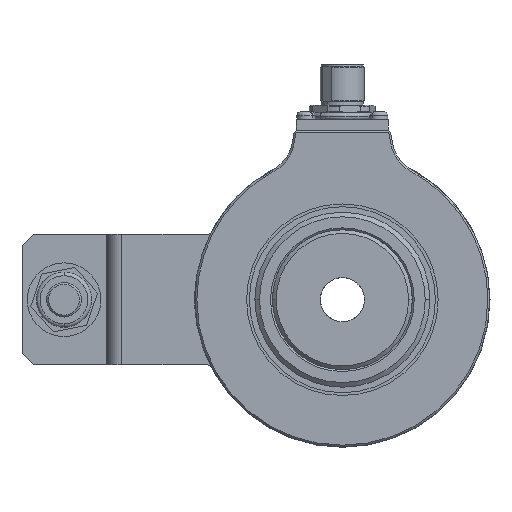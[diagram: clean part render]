
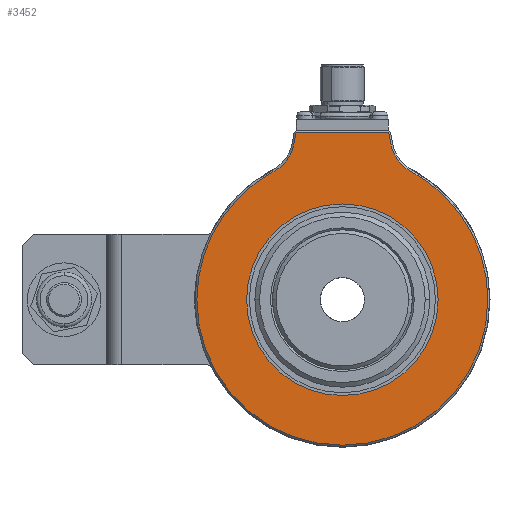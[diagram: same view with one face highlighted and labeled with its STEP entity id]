
A CAD part, left-side view. The second image highlights one B-rep face of the part: STEP entity #3452.
In plain terms, the highlighted planar face has unit normal (-1, 0, 0).
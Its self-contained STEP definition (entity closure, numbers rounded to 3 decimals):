
#177 = DIRECTION ( 'NONE',  ( 0., -1., 0. ) ) ;
#208 = ORIENTED_EDGE ( 'NONE', *, *, #19982, .T. ) ;
#268 = CARTESIAN_POINT ( 'NONE',  ( -26., 0., 0. ) ) ;
#314 = DIRECTION ( 'NONE',  ( 0., -1., 0. ) ) ;
#568 = ORIENTED_EDGE ( 'NONE', *, *, #19770, .T. ) ;
#871 = AXIS2_PLACEMENT_3D ( 'NONE', #19127, #6212, #19242 ) ;
#1246 = CIRCLE ( 'NONE', #871, 26. ) ;
#1474 = VECTOR ( 'NONE', #20371, 1000. ) ;
#1599 = CARTESIAN_POINT ( 'NONE',  ( -26., 26., 0. ) ) ;
#1728 = EDGE_CURVE ( 'NONE', #5624, #6190, #1246, .T. ) ;
#1959 = ORIENTED_EDGE ( 'NONE', *, *, #16343, .T. ) ;
#2314 = EDGE_CURVE ( 'NONE', #14946, #4843, #15347, .T. ) ;
#3386 = CARTESIAN_POINT ( 'NONE',  ( -26., -12.58, 45.5 ) ) ;
#3452 = ADVANCED_FACE ( 'NONE', ( #14833, #22257 ), #20421, .T. ) ;
#3647 = CARTESIAN_POINT ( 'NONE',  ( -26., 40., 45.5 ) ) ;
#3831 = AXIS2_PLACEMENT_3D ( 'NONE', #268, #21439, #15849 ) ;
#4328 = EDGE_CURVE ( 'NONE', #20105, #20450, #10724, .T. ) ;
#4430 = EDGE_LOOP ( 'NONE', ( #22600, #12566, #568, #20497, #5252, #208, #20348, #6012 ) ) ;
#4843 = VERTEX_POINT ( 'NONE', #12068 ) ;
#5106 = CARTESIAN_POINT ( 'NONE',  ( -26., 0., 0. ) ) ;
#5252 = ORIENTED_EDGE ( 'NONE', *, *, #22607, .T. ) ;
#5343 = EDGE_LOOP ( 'NONE', ( #1959, #7715 ) ) ;
#5568 = CARTESIAN_POINT ( 'NONE',  ( -26., 40., 0. ) ) ;
#5608 = DIRECTION ( 'NONE',  ( 0., 1., 0. ) ) ;
#5624 = VERTEX_POINT ( 'NONE', #6752 ) ;
#5646 = DIRECTION ( 'NONE',  ( 0., -1., 0. ) ) ;
#5745 = CARTESIAN_POINT ( 'NONE',  ( -26., 0., 0. ) ) ;
#6012 = ORIENTED_EDGE ( 'NONE', *, *, #2314, .T. ) ;
#6190 = VERTEX_POINT ( 'NONE', #1599 ) ;
#6212 = DIRECTION ( 'NONE',  ( 1., 0., 0. ) ) ;
#6472 = VERTEX_POINT ( 'NONE', #8315 ) ;
#6752 = CARTESIAN_POINT ( 'NONE',  ( -26., -26., 0. ) ) ;
#6827 = CARTESIAN_POINT ( 'NONE',  ( -26., 13.141, 42.32 ) ) ;
#7149 = AXIS2_PLACEMENT_3D ( 'NONE', #11394, #15566, #314 ) ;
#7383 = AXIS2_PLACEMENT_3D ( 'NONE', #5106, #14486, #177 ) ;
#7583 = CARTESIAN_POINT ( 'NONE',  ( -26., 21.188, -3.317 ) ) ;
#7715 = ORIENTED_EDGE ( 'NONE', *, *, #1728, .T. ) ;
#7861 = VERTEX_POINT ( 'NONE', #10868 ) ;
#8315 = CARTESIAN_POINT ( 'NONE',  ( -26., 18.551, 34.873 ) ) ;
#10724 = LINE ( 'NONE', #3647, #13028 ) ;
#10868 = CARTESIAN_POINT ( 'NONE',  ( -26., 39.5, 0. ) ) ;
#11349 = DIRECTION ( 'NONE',  ( 1., 0., 0. ) ) ;
#11394 = CARTESIAN_POINT ( 'NONE',  ( -26., -23.482, 44.143 ) ) ;
#11902 = AXIS2_PLACEMENT_3D ( 'NONE', #20640, #23941, #20279 ) ;
#12048 = CARTESIAN_POINT ( 'NONE',  ( -26., -18.776, 10.364 ) ) ;
#12068 = CARTESIAN_POINT ( 'NONE',  ( -26., -13.141, 42.32 ) ) ;
#12566 = ORIENTED_EDGE ( 'NONE', *, *, #4328, .T. ) ;
#12710 = VECTOR ( 'NONE', #15846, 1000. ) ;
#12836 = VERTEX_POINT ( 'NONE', #22313 ) ;
#12993 = DIRECTION ( 'NONE',  ( 0., -1., 0. ) ) ;
#13028 = VECTOR ( 'NONE', #5608, 1000. ) ;
#13063 = CIRCLE ( 'NONE', #11902, 26. ) ;
#13124 = DIRECTION ( 'NONE',  ( -1., 0., 0. ) ) ;
#13184 = CARTESIAN_POINT ( 'NONE',  ( -26., -18.551, 34.873 ) ) ;
#13196 = CARTESIAN_POINT ( 'NONE',  ( -26., 23.482, 44.143 ) ) ;
#14009 = LINE ( 'NONE', #12048, #12710 ) ;
#14486 = DIRECTION ( 'NONE',  ( -1., 0., 0. ) ) ;
#14833 = FACE_OUTER_BOUND ( 'NONE', #4430, .T. ) ;
#14946 = VERTEX_POINT ( 'NONE', #13184 ) ;
#15347 = CIRCLE ( 'NONE', #7149, 10.5 ) ;
#15370 = DIRECTION ( 'NONE',  ( 0., -1., 0. ) ) ;
#15566 = DIRECTION ( 'NONE',  ( 1., 0., 0. ) ) ;
#15580 = CARTESIAN_POINT ( 'NONE',  ( -26., 12.58, 45.5 ) ) ;
#15846 = DIRECTION ( 'NONE',  ( 0., 0.174, 0.985 ) ) ;
#15849 = DIRECTION ( 'NONE',  ( 0., -1., 0. ) ) ;
#16343 = EDGE_CURVE ( 'NONE', #6190, #5624, #13063, .T. ) ;
#17838 = CIRCLE ( 'NONE', #3831, 39.5 ) ;
#18028 = EDGE_CURVE ( 'NONE', #18334, #6472, #20462, .T. ) ;
#18334 = VERTEX_POINT ( 'NONE', #6827 ) ;
#18505 = EDGE_CURVE ( 'NONE', #4843, #20105, #14009, .T. ) ;
#18881 = CIRCLE ( 'NONE', #21609, 39.5 ) ;
#19127 = CARTESIAN_POINT ( 'NONE',  ( -26., 0., 0. ) ) ;
#19242 = DIRECTION ( 'NONE',  ( 0., 1., 0. ) ) ;
#19692 = AXIS2_PLACEMENT_3D ( 'NONE', #13196, #11349, #5646 ) ;
#19770 = EDGE_CURVE ( 'NONE', #20450, #18334, #23796, .T. ) ;
#19982 = EDGE_CURVE ( 'NONE', #7861, #12836, #17838, .T. ) ;
#19993 = AXIS2_PLACEMENT_3D ( 'NONE', #5568, #13124, #12993 ) ;
#20105 = VERTEX_POINT ( 'NONE', #3386 ) ;
#20279 = DIRECTION ( 'NONE',  ( 0., 1., 0. ) ) ;
#20348 = ORIENTED_EDGE ( 'NONE', *, *, #21692, .T. ) ;
#20371 = DIRECTION ( 'NONE',  ( 0., 0.174, -0.985 ) ) ;
#20421 = PLANE ( 'NONE',  #19993 ) ;
#20450 = VERTEX_POINT ( 'NONE', #15580 ) ;
#20462 = CIRCLE ( 'NONE', #19692, 10.5 ) ;
#20497 = ORIENTED_EDGE ( 'NONE', *, *, #18028, .T. ) ;
#20640 = CARTESIAN_POINT ( 'NONE',  ( -26., 0., 0. ) ) ;
#21439 = DIRECTION ( 'NONE',  ( -1., 0., 0. ) ) ;
#21609 = AXIS2_PLACEMENT_3D ( 'NONE', #5745, #22556, #15370 ) ;
#21692 = EDGE_CURVE ( 'NONE', #12836, #14946, #21796, .T. ) ;
#21796 = CIRCLE ( 'NONE', #7383, 39.5 ) ;
#22257 = FACE_BOUND ( 'NONE', #5343, .T. ) ;
#22313 = CARTESIAN_POINT ( 'NONE',  ( -26., -39.5, 0. ) ) ;
#22556 = DIRECTION ( 'NONE',  ( -1., 0., 0. ) ) ;
#22600 = ORIENTED_EDGE ( 'NONE', *, *, #18505, .T. ) ;
#22607 = EDGE_CURVE ( 'NONE', #6472, #7861, #18881, .T. ) ;
#23796 = LINE ( 'NONE', #7583, #1474 ) ;
#23941 = DIRECTION ( 'NONE',  ( 1., 0., 0. ) ) ;
